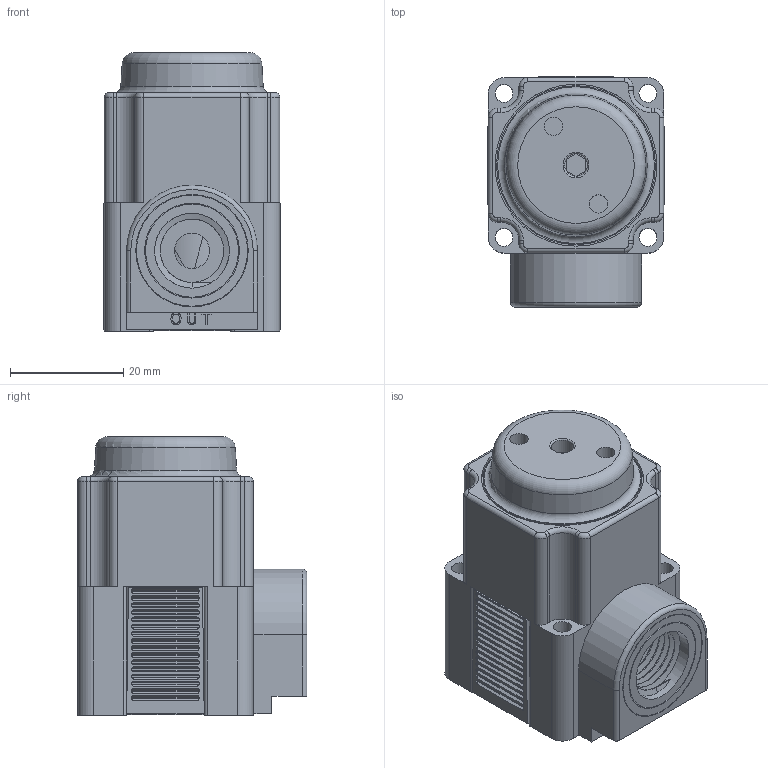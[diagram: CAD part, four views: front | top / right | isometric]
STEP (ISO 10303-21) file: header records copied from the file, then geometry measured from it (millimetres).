
FILE_DESCRIPTION(/* description */ (''),/* implementation_level */ '2;1');
FILE_NAME(/* name */ 'K:\Normteile INVENTOR\Air-Logic\Regulators\PR7000\PR 7___ 2 1''4-18 NPT Threads Out.igs.ipt.stp',/* time_stamp */ '2020-05-27T10:53:55+02:00',/* author */ ('Paul'),/* organization */ (''),/* preprocessor_version */ 'ST-DEVELOPER v18',/* originating_system */ 'Autodesk Inventor 2020',/* authorisation */ '');
FILE_SCHEMA (('AUTOMOTIVE_DESIGN { 1 0 10303 214 3 1 1 }'));
Length unit declared in the file: inch
Products named in the file (1): PR 7___ 2 1'4-18 NPT Threads Out.igs
Bounding box: 31.19 x 40.56 x 49.15 mm (x, y, z)
Volume: 42561.5 mm3; surface area: 13943.3 mm2
Topology: 1 solids, 1 shells, 637 faces, 1660 edges, 1085 vertices
Faces by surface type: plane 314, cylinder 263, bspline 40, torus 18, cone 2
Full cylindrical faces by diameter (mm): 3.175 x4, 3.226 x2, 4.013 x1, 6.223 x1, 6.248 x1, 11.163 x6, 13.208 x6, 16.408 x1, 16.717 x1, 19.612 x1, 19.825 x1, 26.264 x1, 27.991 x1, 28.047 x1, 28.575 x1
Entity records: 23621 total; most frequent: CARTESIAN_POINT 6998, DIRECTION 3413, ORIENTED_EDGE 3320, EDGE_CURVE 1660, AXIS2_PLACEMENT_3D 1330, VERTEX_POINT 1085, LINE 753, VECTOR 753
